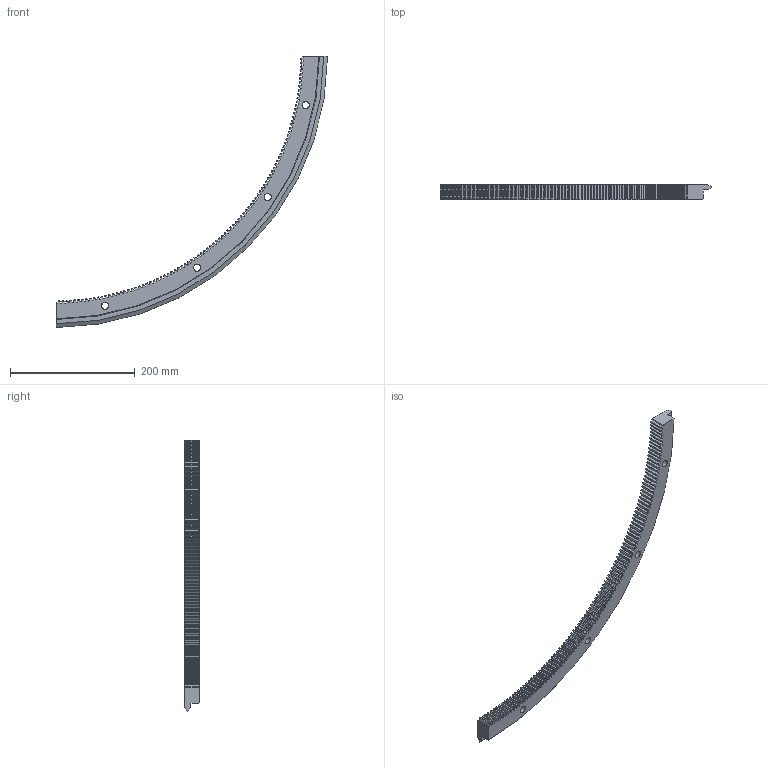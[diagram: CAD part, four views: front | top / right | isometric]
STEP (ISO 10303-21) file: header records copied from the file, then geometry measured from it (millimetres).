
FILE_DESCRIPTION( ( 'STEP AP203' ), '1' );
FILE_NAME( 'p:/temp/worker_47/temp/exporttempdir_7100_926_WFMtB/format_0/REL 874 R90 Q.stp', '2021-08-30T05:11:18', ( 'License CC BY-ND 4.0' ), ( 'CADENAS' ), ' ', 'PARTsolutions', ' ' );
FILE_SCHEMA( ( 'CONFIG_CONTROL_DESIGN' ) );
Length unit declared in the file: millimetre
Products named in the file (1): _REL 874 R90 Q
Bounding box: 434.99 x 24 x 434.99 mm (x, y, z)
Volume: 476726.3 mm3; surface area: 98821.9 mm2
Topology: 1 solids, 1 shells, 521 faces, 1541 edges, 1026 vertices
Faces by surface type: plane 208, cylinder 207, cone 105, torus 1
Full cylindrical faces by diameter (mm): 11 x4, 18 x4
Entity records: 17760 total; most frequent: CARTESIAN_POINT 3701, ORIENTED_EDGE 3058, DIRECTION 2890, EDGE_CURVE 1529, AXIS2_PLACEMENT_3D 1043, VERTEX_POINT 1026, LINE 804, VECTOR 804
